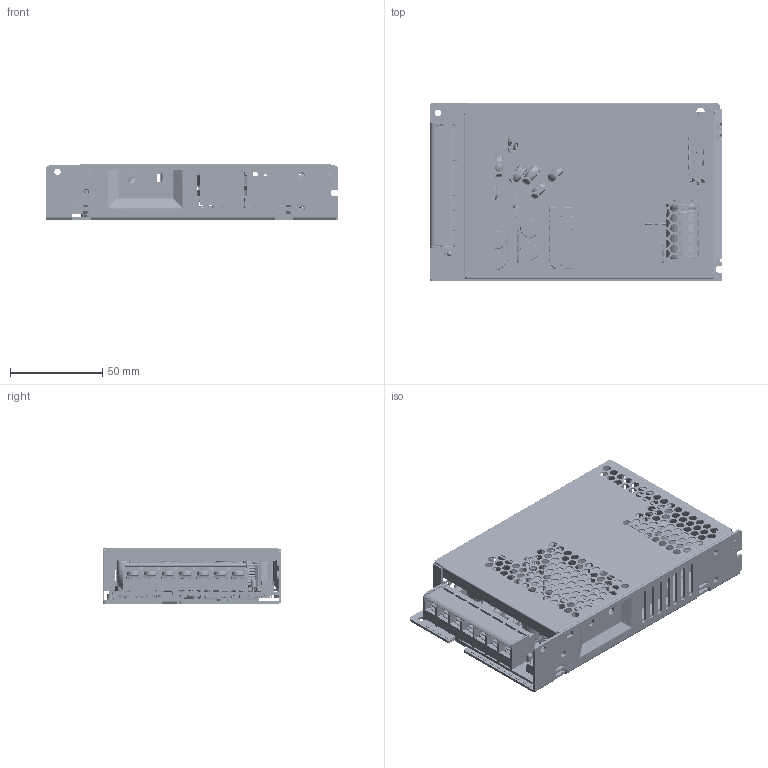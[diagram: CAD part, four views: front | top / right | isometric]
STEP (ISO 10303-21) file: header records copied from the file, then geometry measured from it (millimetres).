
FILE_DESCRIPTION((''),'2;1');
FILE_NAME('PMRXXV240W1AT_ASM','2025-07-09T14:46:50',('EUNICE.HUANG'),(''),'CREO PARAMETRIC BY PTC INC, 2023294','CREO PARAMETRIC BY PTC INC, 2023294','');
FILE_SCHEMA(('CONFIG_CONTROL_DESIGN'));
Products named in the file (481): BOARD_1_1; 242502801408_1; D102_ASM_1_1_ASM; D101_ASM_1_1_ASM; 3411010600_1_1; J105_ASM_1_1_ASM; 3411010700_1_1; J104_ASM_1_1_ASM; J103_ASM_1_ASM; J22_ASM_1_1_ASM; 3411010800_1_1; J21_ASM_1_ASM; J20_ASM_1_ASM; 3411010500_1_1; J19_ASM_1_1_ASM; J17_ASM_1_1_ASM; J14_ASM_1_1_ASM; J7_ASM_1_1_ASM; 3411010400_1_1; J6_ASM_1_1_ASM; J5_ASM_1_1_ASM; J4_ASM_1_1_ASM; J1_ASM_1_ASM; 1732158583_1; C4_ASM_1_1_ASM; 140152210128_1_1; C37_ASM_1_1_ASM; 17Z1012073_1; C2_ASM_1_1_ASM; 51826600R0_1_1; CORE-EQ3319_1_1; WIRE_4_1; WIRE-1_2_1; OUTERSHIELD_3_1; OUTERTAPE_5_1; 51826600R0_ASM_10_ASM_ASM_1_ASM; 2870741600_ASM_1_ASM; T1_ASM_1_1_ASM; 317-TOR18-4H_2_1_1; 317-TOR18-4H_2_2_1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
Assembly tree (692 placements, depth 13):
  PMRXXV240W1AT_ASM
    PMR-12V240W1ATR2C0_ASM_1_ASM
      PCB_ASM_1_1_ASM
        BOARD_1_1
        D102_ASM_1_1_ASM
          242502801408_1
        D101_ASM_1_1_ASM
          242502801408_1
        J105_ASM_1_1_ASM
          3411010600_1_1
        J104_ASM_1_1_ASM
          3411010700_1_1
        J103_ASM_1_ASM
          3411010700_1_1
        J22_ASM_1_1_ASM
          3411010700_1_1
        J21_ASM_1_ASM
          3411010800_1_1
        J20_ASM_1_ASM
          3411010800_1_1
        J19_ASM_1_1_ASM
          3411010500_1_1
        J17_ASM_1_1_ASM
          3411010800_1_1
        J14_ASM_1_1_ASM
          3411010800_1_1
        J7_ASM_1_1_ASM
          3411010800_1_1
        J6_ASM_1_1_ASM
          3411010400_1_1
        J5_ASM_1_1_ASM
          3411010600_1_1
        J4_ASM_1_1_ASM
          3411010500_1_1
        J1_ASM_1_ASM
          3411010500_1_1
        C4_ASM_1_1_ASM
          1732158583_1
        C37_ASM_1_1_ASM
          140152210128_1_1
        C2_ASM_1_1_ASM
          17Z1012073_1
        T1_ASM_1_1_ASM
          2870741600_ASM_1_ASM
            51826600R0_ASM_10_ASM_ASM_1_ASM
              51826600R0_1_1
              CORE-EQ3319_1_1  x2
              WIRE_4_1
              WIRE-1_2_1
              OUTERSHIELD_3_1
              OUTERTAPE_5_1
        FL2_ASM_1_1_ASM
          2875548200_ASM_1_ASM
            HFV-NB20355_ASM_ASM_1_ASM
              317-TOR18-4H_2_ASM_ASM_1_ASM
                317-TOR18-4H_2_1_1
                317-TOR18-4H_2_2_1
                317-TOR18-4H_2_3_1
                317-TOR18-4H_2_4_1
                317-TOR18-4H_2_5_1
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Bounding box: 159 x 97 x 30 mm (x, y, z)
Volume: 160377.7 mm3; surface area: 230763.1 mm2
Topology: 520 solids, 521 shells, 16762 faces, 43632 edges, 27804 vertices
Faces by surface type: plane 7441, cylinder 5999, torus 2376, bspline 707, sphere 171, cone 68
Entity records: 342005 total; most frequent: CARTESIAN_POINT 95007, DIRECTION 54989, ORIENTED_EDGE 48518, EDGE_CURVE 24261, AXIS2_PLACEMENT_3D 22119, VERTEX_POINT 15306, CIRCLE 11405, VECTOR 10751
